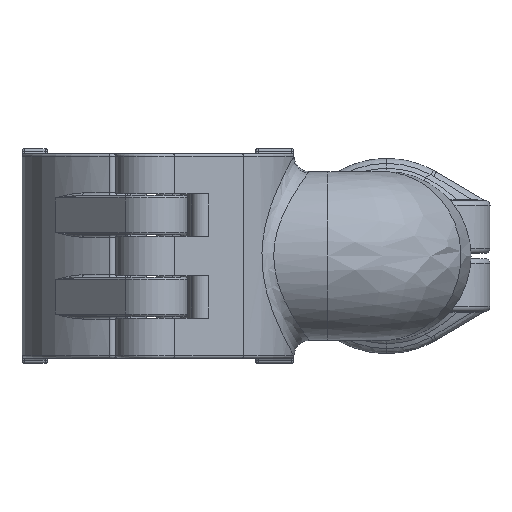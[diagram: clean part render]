
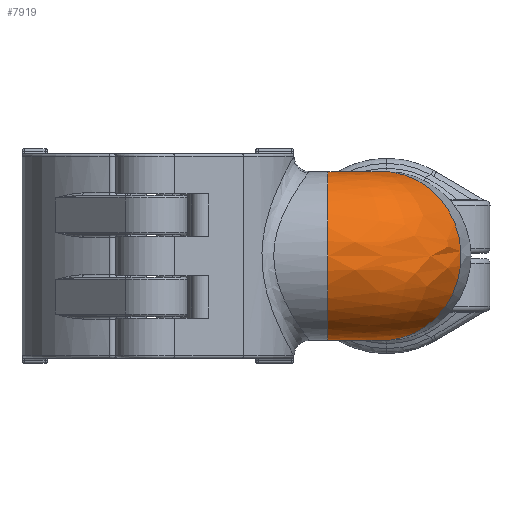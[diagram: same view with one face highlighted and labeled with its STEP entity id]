
A CAD part, left-side view. The second image highlights one B-rep face of the part: STEP entity #7919.
In plain terms, the highlighted free-form (B-spline) face has degree [3, 3] with [4, 7] control points.
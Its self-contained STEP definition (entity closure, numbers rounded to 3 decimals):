
#3183=CARTESIAN_POINT('',(7.376,-45.864,
0.));
#3184=DIRECTION('',(-0.93,0.368,0.));
#3185=DIRECTION('',(0.202,0.51,-0.836));
#3186=AXIS2_PLACEMENT_3D('',#3183,#3184,#3185);
#3191=CARTESIAN_POINT('',(7.376,-45.864,
0.));
#3192=DIRECTION('',(-0.93,0.368,0.));
#3193=DIRECTION('',(-0.202,-0.51,-0.836));
#3194=AXIS2_PLACEMENT_3D('',#3191,#3192,#3193);
#3227=CARTESIAN_POINT('',(10.754,-37.331,
-14.006));
#3228=CARTESIAN_POINT('',(10.538,-37.205,
-13.981));
#3229=CARTESIAN_POINT('',(10.139,-36.922,
-13.949));
#3230=CARTESIAN_POINT('',(9.604,-36.348,
-13.959));
#3231=CARTESIAN_POINT('',(9.224,-35.745,
-14.024));
#3232=CARTESIAN_POINT('',(9.032,-35.267,
-14.101));
#3233=CARTESIAN_POINT('',(8.957,-35.012,
-14.148));
#3238=CARTESIAN_POINT('',(0.,-35.012,
0.));
#3239=DIRECTION('',(0.,1.,0.));
#3240=DIRECTION('',(0.535,0.,-0.845));
#3241=AXIS2_PLACEMENT_3D('',#3238,#3239,#3240);
#3246=CARTESIAN_POINT('',(0.,-35.012,
0.));
#3247=DIRECTION('',(0.,1.,0.));
#3248=DIRECTION('',(0.,0.,-1.));
#3249=AXIS2_PLACEMENT_3D('',#3246,#3247,#3248);
#3254=CARTESIAN_POINT('',(0.,-35.012,
0.));
#3255=DIRECTION('',(0.,1.,0.));
#3256=DIRECTION('',(0.,0.,1.));
#3257=AXIS2_PLACEMENT_3D('',#3254,#3255,#3256);
#3262=CARTESIAN_POINT('',(8.957,-35.012,14.148));
#3263=CARTESIAN_POINT('',(9.031,-35.266,14.101));
#3264=CARTESIAN_POINT('',(9.224,-35.743,14.024));
#3265=CARTESIAN_POINT('',(9.601,-36.344,13.96));
#3266=CARTESIAN_POINT('',(10.138,-36.921,13.949));
#3267=CARTESIAN_POINT('',(10.538,-37.204,13.981));
#3268=CARTESIAN_POINT('',(10.754,-37.33,14.006));
#4609=CARTESIAN_POINT('',(3.999,-54.398,
-14.006));
#4610=CARTESIAN_POINT('',(10.754,-37.33,14.006));
#4611=VERTEX_POINT('',#4609);
#4612=VERTEX_POINT('',#4610);
#4613=CARTESIAN_POINT('',(10.754,-37.331,
-14.006));
#4614=VERTEX_POINT('',#4613);
#4615=VERTEX_POINT('',#3233);
#4616=CARTESIAN_POINT('',(0.001,-35.012,
-16.745));
#4617=VERTEX_POINT('',#4616);
#4618=CARTESIAN_POINT('',(0.,-35.012,
16.745));
#4619=VERTEX_POINT('',#4618);
#4620=CARTESIAN_POINT('',(8.957,-35.012,14.148));
#4621=VERTEX_POINT('',#4620);
#7876=CARTESIAN_POINT('',(10.425,-34.934,
-13.106));
#7877=CARTESIAN_POINT('',(-2.181,-34.137,
-23.151));
#7878=CARTESIAN_POINT('',(-16.688,-33.22,
-16.139));
#7879=CARTESIAN_POINT('',(-16.688,-33.22,
0.));
#7880=CARTESIAN_POINT('',(-16.688,-33.22,
16.139));
#7881=CARTESIAN_POINT('',(-2.181,-34.137,
23.151));
#7882=CARTESIAN_POINT('',(10.425,-34.934,13.106));
#7883=CARTESIAN_POINT('',(10.388,-35.526,
-13.106));
#7884=CARTESIAN_POINT('',(-2.597,-40.722,
-23.151));
#7885=CARTESIAN_POINT('',(-17.54,-46.701,
-16.139));
#7886=CARTESIAN_POINT('',(-17.54,-46.701,
0.));
#7887=CARTESIAN_POINT('',(-17.541,-46.701,
16.139));
#7888=CARTESIAN_POINT('',(-2.598,-40.722,
23.151));
#7889=CARTESIAN_POINT('',(10.388,-35.526,13.106));
#7890=CARTESIAN_POINT('',(10.721,-36.016,
-13.106));
#7891=CARTESIAN_POINT('',(1.112,-46.179,
-23.151));
#7892=CARTESIAN_POINT('',(-9.947,-57.873,
-16.139));
#7893=CARTESIAN_POINT('',(-9.947,-57.873,
0.));
#7894=CARTESIAN_POINT('',(-9.947,-57.873,
16.139));
#7895=CARTESIAN_POINT('',(1.112,-46.179,23.151));
#7896=CARTESIAN_POINT('',(10.721,-36.017,13.106));
#7897=CARTESIAN_POINT('',(11.286,-36.2,
-13.106));
#7898=CARTESIAN_POINT('',(7.388,-48.215,
-23.151));
#7899=CARTESIAN_POINT('',(2.903,-62.041,
-16.139));
#7900=CARTESIAN_POINT('',(2.903,-62.041,
0.));
#7901=CARTESIAN_POINT('',(2.902,-62.042,16.139));
#7902=CARTESIAN_POINT('',(7.388,-48.215,23.151));
#7903=CARTESIAN_POINT('',(11.286,-36.2,13.106));
#7904=(BOUNDED_SURFACE()B_SPLINE_SURFACE(3,3,((#7876,#7877,#7878,#7879,#7880,
#7881,#7882),(#7883,#7884,#7885,#7886,#7887,#7888,#7889),(#7890,#7891,#7892,
#7893,#7894,#7895,#7896),(#7897,#7898,#7899,#7900,#7901,#7902,#7903)),
.UNSPECIFIED.,.F.,.F.,.F.)B_SPLINE_SURFACE_WITH_KNOTS((4,4),(4,3,4),(0.,1.),
(0.,1.,2.),.UNSPECIFIED.)GEOMETRIC_REPRESENTATION_ITEM()RATIONAL_B_SPLINE_SURFACE(((1.558,0.971,0.971,1.558,
0.971,0.971,1.558),(1.34,
0.835,0.835,1.34,0.835,
0.835,1.34),(1.34,0.835,
0.835,1.34,0.835,0.835,
1.34),(1.558,0.971,0.971,
1.558,0.971,0.971,1.558)))REPRESENTATION_ITEM('')SURFACE());
#7905=ORIENTED_EDGE('',*,*,#7864,.F.);
#7906=ORIENTED_EDGE('',*,*,#7862,.F.);
#7908=ORIENTED_EDGE('',*,*,#7907,.T.);
#7910=ORIENTED_EDGE('',*,*,#7909,.T.);
#7912=ORIENTED_EDGE('',*,*,#7911,.T.);
#7914=ORIENTED_EDGE('',*,*,#7913,.T.);
#7916=ORIENTED_EDGE('',*,*,#7915,.T.);
#7917=EDGE_LOOP('',(#7905,#7906,#7908,#7910,#7912,#7914,#7916));
#7918=FACE_OUTER_BOUND('',#7917,.F.);
#3187=CIRCLE('',#3186,16.745);
#3195=CIRCLE('',#3194,16.745);
#3234=B_SPLINE_CURVE_WITH_KNOTS('',3,(#3227,#3228,#3229,#3230,#3231,#3232,
#3233),.UNSPECIFIED.,.F.,.F.,(4,1,1,1,4),(0.,0.25,0.5,0.75,1.),
.UNSPECIFIED.);
#3242=CIRCLE('',#3241,16.745);
#3250=CIRCLE('',#3249,16.745);
#3258=CIRCLE('',#3257,16.745);
#3269=B_SPLINE_CURVE_WITH_KNOTS('',3,(#3262,#3263,#3264,#3265,#3266,#3267,
#3268),.UNSPECIFIED.,.F.,.F.,(4,1,1,1,4),(0.,0.25,0.5,0.75,1.),
.UNSPECIFIED.);
#7862=EDGE_CURVE('',#4614,#4611,#3187,.T.);
#7864=EDGE_CURVE('',#4611,#4612,#3195,.T.);
#7907=EDGE_CURVE('',#4614,#4615,#3234,.T.);
#7909=EDGE_CURVE('',#4615,#4617,#3242,.T.);
#7911=EDGE_CURVE('',#4617,#4619,#3250,.T.);
#7913=EDGE_CURVE('',#4619,#4621,#3258,.T.);
#7915=EDGE_CURVE('',#4621,#4612,#3269,.T.);
#7919=ADVANCED_FACE('',(#7918),#7904,.T.);
